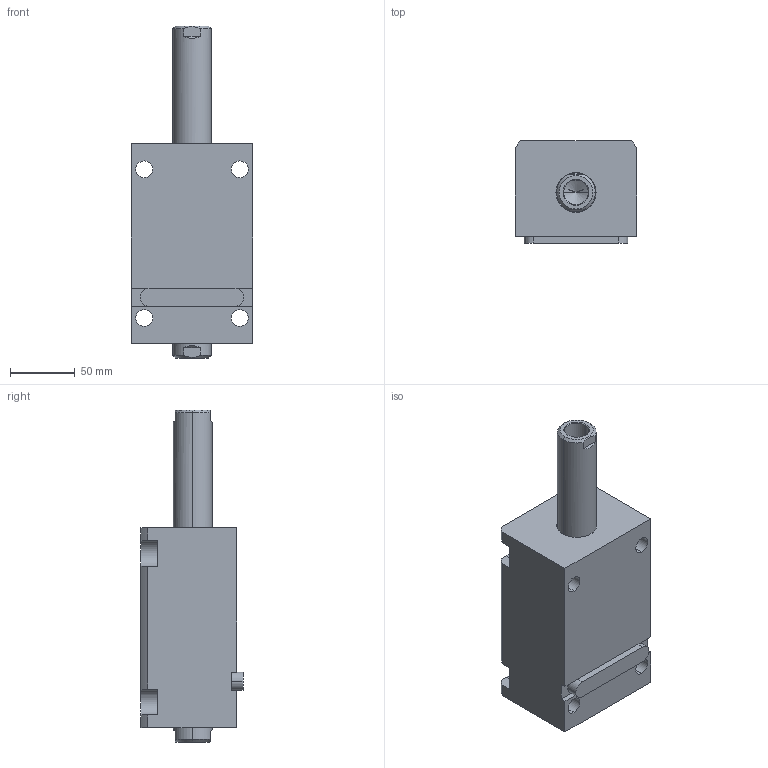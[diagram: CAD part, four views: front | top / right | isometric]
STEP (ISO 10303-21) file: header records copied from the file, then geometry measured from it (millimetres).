
FILE_DESCRIPTION (( 'STEP AP203' ), '1' );
FILE_NAME ('CHTB-LW50-80N.STEP', '2018-05-18T09:02:29', ( '' ), ( '' ), 'SwSTEP 2.0', 'SolidWorks 2015', '' );
FILE_SCHEMA (( 'CONFIG_CONTROL_DESIGN' ));
Length unit declared in the file: millimetre
Products named in the file (4): 活塞杆LW50-80N; CHTB-LW50-80N; 掛极LW50-80N; CHTM-SDMA50QG
Assembly tree (3 placements, depth 2):
  CHTB-LW50-80N
    掛极LW50-80N
    活塞杆LW50-80N
    CHTM-SDMA50QG
Bounding box: 94 x 79 x 257 mm (x, y, z)
Volume: 975868.5 mm3; surface area: 148251.8 mm2
Topology: 3 solids, 3 shells, 221 faces, 588 edges, 385 vertices
Faces by surface type: cylinder 102, plane 58, cone 31, torus 16, bspline 14
Entity records: 11831 total; most frequent: CARTESIAN_POINT 6126, ORIENTED_EDGE 1160, DIRECTION 1056, EDGE_CURVE 580, AXIS2_PLACEMENT_3D 416, VERTEX_POINT 385, EDGE_LOOP 257, LINE 224
